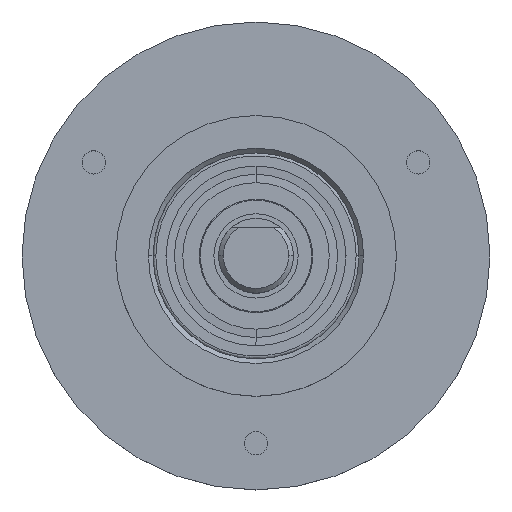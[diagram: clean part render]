
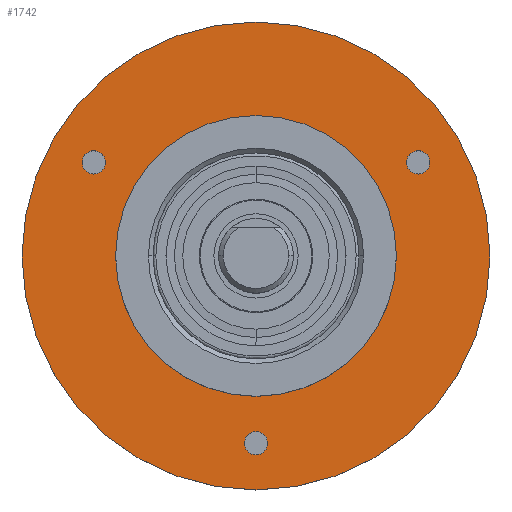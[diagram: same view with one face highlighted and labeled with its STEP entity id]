
A CAD part, top view. The second image highlights one B-rep face of the part: STEP entity #1742.
In plain terms, the highlighted planar face has unit normal (0, 0, 1).
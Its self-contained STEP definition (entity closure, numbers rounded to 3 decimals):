
#30 = EDGE_CURVE ( 'NONE', #1103, #1370, #2612, .T. ) ;
#39 = CARTESIAN_POINT ( 'NONE',  ( 16.071, 10., -5. ) ) ;
#53 = EDGE_CURVE ( 'NONE', #3154, #1385, #2142, .T. ) ;
#62 = AXIS2_PLACEMENT_3D ( 'NONE', #551, #1438, #1698 ) ;
#148 = FACE_BOUND ( 'NONE', #774, .T. ) ;
#153 = DIRECTION ( 'NONE',  ( 1., 0., 0. ) ) ;
#344 = AXIS2_PLACEMENT_3D ( 'NONE', #2557, #808, #2854 ) ;
#391 = EDGE_CURVE ( 'NONE', #2124, #2028, #417, .T. ) ;
#393 = DIRECTION ( 'NONE',  ( 1., 0., 0. ) ) ;
#403 = CIRCLE ( 'NONE', #1075, 15. ) ;
#417 = CIRCLE ( 'NONE', #3246, 1.25 ) ;
#437 = ORIENTED_EDGE ( 'NONE', *, *, #391, .F. ) ;
#512 = AXIS2_PLACEMENT_3D ( 'NONE', #2922, #2347, #572 ) ;
#551 = CARTESIAN_POINT ( 'NONE',  ( 0., 0., -5. ) ) ;
#563 = EDGE_CURVE ( 'NONE', #3082, #3665, #2307, .T. ) ;
#572 = DIRECTION ( 'NONE',  ( -1., 0., 0. ) ) ;
#664 = CARTESIAN_POINT ( 'NONE',  ( 0., -20., -5. ) ) ;
#712 = EDGE_LOOP ( 'NONE', ( #2381, #1864 ) ) ;
#749 = AXIS2_PLACEMENT_3D ( 'NONE', #2574, #818, #2174 ) ;
#773 = CARTESIAN_POINT ( 'NONE',  ( 0., -20., -5. ) ) ;
#774 = EDGE_LOOP ( 'NONE', ( #1899, #3415 ) ) ;
#808 = DIRECTION ( 'NONE',  ( 0., 0., 1. ) ) ;
#818 = DIRECTION ( 'NONE',  ( 0., 0., 1. ) ) ;
#823 = EDGE_CURVE ( 'NONE', #1151, #3202, #3417, .T. ) ;
#931 = CARTESIAN_POINT ( 'NONE',  ( -16.071, 10., -5. ) ) ;
#947 = FACE_BOUND ( 'NONE', #3421, .T. ) ;
#964 = DIRECTION ( 'NONE',  ( 1., 0., 0. ) ) ;
#972 = EDGE_CURVE ( 'NONE', #1385, #3154, #2177, .T. ) ;
#977 = CARTESIAN_POINT ( 'NONE',  ( 18.571, 10., -5. ) ) ;
#989 = EDGE_LOOP ( 'NONE', ( #437, #3532 ) ) ;
#1026 = ORIENTED_EDGE ( 'NONE', *, *, #972, .F. ) ;
#1075 = AXIS2_PLACEMENT_3D ( 'NONE', #3145, #1362, #3442 ) ;
#1103 = VERTEX_POINT ( 'NONE', #3263 ) ;
#1151 = VERTEX_POINT ( 'NONE', #1524 ) ;
#1210 = CIRCLE ( 'NONE', #2178, 25. ) ;
#1310 = CARTESIAN_POINT ( 'NONE',  ( 0., 0., -5. ) ) ;
#1313 = ORIENTED_EDGE ( 'NONE', *, *, #563, .F. ) ;
#1362 = DIRECTION ( 'NONE',  ( 0., 0., 1. ) ) ;
#1370 = VERTEX_POINT ( 'NONE', #2399 ) ;
#1385 = VERTEX_POINT ( 'NONE', #931 ) ;
#1438 = DIRECTION ( 'NONE',  ( 0., 0., 1. ) ) ;
#1458 = DIRECTION ( 'NONE',  ( 1., 0., 0. ) ) ;
#1524 = CARTESIAN_POINT ( 'NONE',  ( -15., 0., -5. ) ) ;
#1603 = EDGE_CURVE ( 'NONE', #1370, #1103, #1210, .T. ) ;
#1619 = DIRECTION ( 'NONE',  ( 1., 0., 0. ) ) ;
#1623 = FACE_OUTER_BOUND ( 'NONE', #712, .T. ) ;
#1698 = DIRECTION ( 'NONE',  ( 1., 0., 0. ) ) ;
#1740 = DIRECTION ( 'NONE',  ( 1., 0., 0. ) ) ;
#1742 = ADVANCED_FACE ( 'NONE', ( #947, #2422, #2503, #148, #1623 ), #1743, .F. ) ;
#1743 = PLANE ( 'NONE',  #512 ) ;
#1756 = DIRECTION ( 'NONE',  ( 0., 0., 1. ) ) ;
#1803 = AXIS2_PLACEMENT_3D ( 'NONE', #2310, #2978, #1740 ) ;
#1864 = ORIENTED_EDGE ( 'NONE', *, *, #1603, .T. ) ;
#1899 = ORIENTED_EDGE ( 'NONE', *, *, #2344, .F. ) ;
#1918 = DIRECTION ( 'NONE',  ( 0., 0., 1. ) ) ;
#2028 = VERTEX_POINT ( 'NONE', #39 ) ;
#2079 = EDGE_CURVE ( 'NONE', #3665, #3082, #2265, .T. ) ;
#2124 = VERTEX_POINT ( 'NONE', #977 ) ;
#2142 = CIRCLE ( 'NONE', #749, 1.25 ) ;
#2174 = DIRECTION ( 'NONE',  ( 1., 0., 0. ) ) ;
#2177 = CIRCLE ( 'NONE', #1803, 1.25 ) ;
#2178 = AXIS2_PLACEMENT_3D ( 'NONE', #1310, #3395, #1619 ) ;
#2225 = ORIENTED_EDGE ( 'NONE', *, *, #53, .F. ) ;
#2265 = CIRCLE ( 'NONE', #3222, 1.25 ) ;
#2307 = CIRCLE ( 'NONE', #2974, 1.25 ) ;
#2310 = CARTESIAN_POINT ( 'NONE',  ( -17.321, 10., -5. ) ) ;
#2344 = EDGE_CURVE ( 'NONE', #3202, #1151, #403, .T. ) ;
#2347 = DIRECTION ( 'NONE',  ( 0., 0., -1. ) ) ;
#2381 = ORIENTED_EDGE ( 'NONE', *, *, #30, .T. ) ;
#2399 = CARTESIAN_POINT ( 'NONE',  ( -25., 0., -5. ) ) ;
#2422 = FACE_BOUND ( 'NONE', #3013, .T. ) ;
#2503 = FACE_BOUND ( 'NONE', #989, .T. ) ;
#2540 = CARTESIAN_POINT ( 'NONE',  ( -18.571, 10., -5. ) ) ;
#2557 = CARTESIAN_POINT ( 'NONE',  ( 0., 0., -5. ) ) ;
#2574 = CARTESIAN_POINT ( 'NONE',  ( -17.321, 10., -5. ) ) ;
#2612 = CIRCLE ( 'NONE', #344, 25. ) ;
#2726 = DIRECTION ( 'NONE',  ( 0., 0., 1. ) ) ;
#2749 = ORIENTED_EDGE ( 'NONE', *, *, #2079, .F. ) ;
#2853 = CARTESIAN_POINT ( 'NONE',  ( 15., 0., -5. ) ) ;
#2854 = DIRECTION ( 'NONE',  ( 1., 0., 0. ) ) ;
#2920 = CARTESIAN_POINT ( 'NONE',  ( 1.25, -20., -5. ) ) ;
#2922 = CARTESIAN_POINT ( 'NONE',  ( 0., 15., -5. ) ) ;
#2974 = AXIS2_PLACEMENT_3D ( 'NONE', #773, #3124, #393 ) ;
#2978 = DIRECTION ( 'NONE',  ( 0., 0., 1. ) ) ;
#3013 = EDGE_LOOP ( 'NONE', ( #1026, #2225 ) ) ;
#3067 = EDGE_CURVE ( 'NONE', #2028, #2124, #3168, .T. ) ;
#3082 = VERTEX_POINT ( 'NONE', #3381 ) ;
#3124 = DIRECTION ( 'NONE',  ( 0., 0., 1. ) ) ;
#3145 = CARTESIAN_POINT ( 'NONE',  ( 0., 0., -5. ) ) ;
#3154 = VERTEX_POINT ( 'NONE', #2540 ) ;
#3168 = CIRCLE ( 'NONE', #3709, 1.25 ) ;
#3202 = VERTEX_POINT ( 'NONE', #2853 ) ;
#3222 = AXIS2_PLACEMENT_3D ( 'NONE', #664, #2726, #964 ) ;
#3246 = AXIS2_PLACEMENT_3D ( 'NONE', #3831, #1756, #1458 ) ;
#3263 = CARTESIAN_POINT ( 'NONE',  ( 25., 0., -5. ) ) ;
#3381 = CARTESIAN_POINT ( 'NONE',  ( -1.25, -20., -5. ) ) ;
#3395 = DIRECTION ( 'NONE',  ( 0., 0., 1. ) ) ;
#3415 = ORIENTED_EDGE ( 'NONE', *, *, #823, .F. ) ;
#3417 = CIRCLE ( 'NONE', #62, 15. ) ;
#3421 = EDGE_LOOP ( 'NONE', ( #2749, #1313 ) ) ;
#3442 = DIRECTION ( 'NONE',  ( 1., 0., 0. ) ) ;
#3532 = ORIENTED_EDGE ( 'NONE', *, *, #3067, .F. ) ;
#3665 = VERTEX_POINT ( 'NONE', #2920 ) ;
#3688 = CARTESIAN_POINT ( 'NONE',  ( 17.321, 10., -5. ) ) ;
#3709 = AXIS2_PLACEMENT_3D ( 'NONE', #3688, #1918, #153 ) ;
#3831 = CARTESIAN_POINT ( 'NONE',  ( 17.321, 10., -5. ) ) ;
